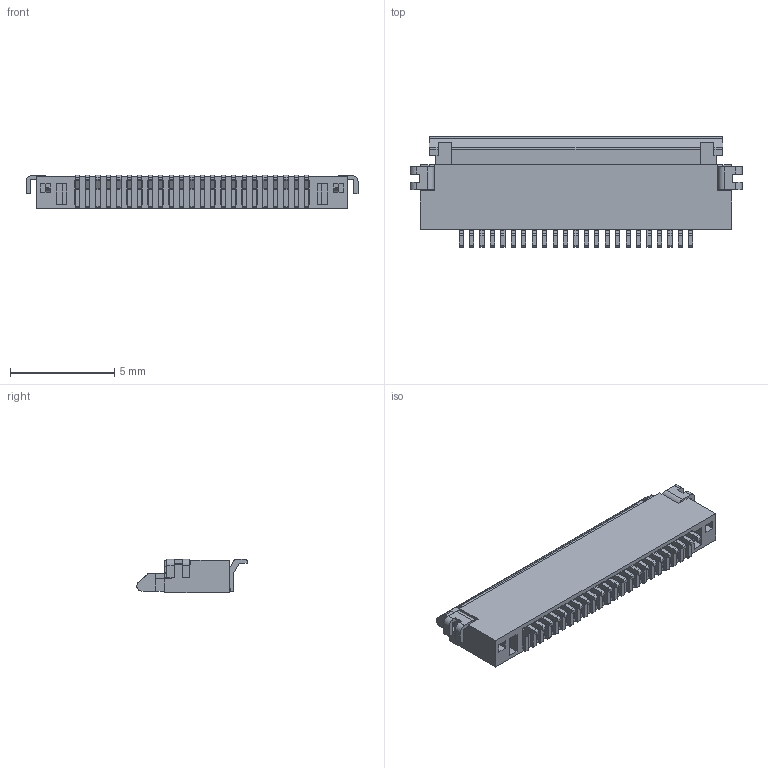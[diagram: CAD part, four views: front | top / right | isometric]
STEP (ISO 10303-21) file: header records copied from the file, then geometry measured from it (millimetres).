
FILE_DESCRIPTION((''),'2;1');
FILE_NAME('S-50506-023XX-XXX','2011-08-23T',('ouchwu'),(''),'PRO/ENGINEER BY PARAMETRIC TECHNOLOGY CORPORATION, 2007450','PRO/ENGINEER BY PARAMETRIC TECHNOLOGY CORPORATION, 2007450','');
FILE_SCHEMA(('CONFIG_CONTROL_DESIGN'));
Length unit declared in the file: millimetre
Products named in the file (1): S-50506-023XX-XXX
Bounding box: 15.9 x 5.29 x 1.6 mm (x, y, z)
Volume: 58.9 mm3; surface area: 501.7 mm2
Topology: 1 solids, 1 shells, 1471 faces, 4529 edges, 2966 vertices
Faces by surface type: plane 950, cylinder 521
Entity records: 50790 total; most frequent: ORIENTED_EDGE 9058, CARTESIAN_POINT 8993, DIRECTION 8601, EDGE_CURVE 4529, VECTOR 3383, LINE 3383, VERTEX_POINT 2966, AXIS2_PLACEMENT_3D 2609
